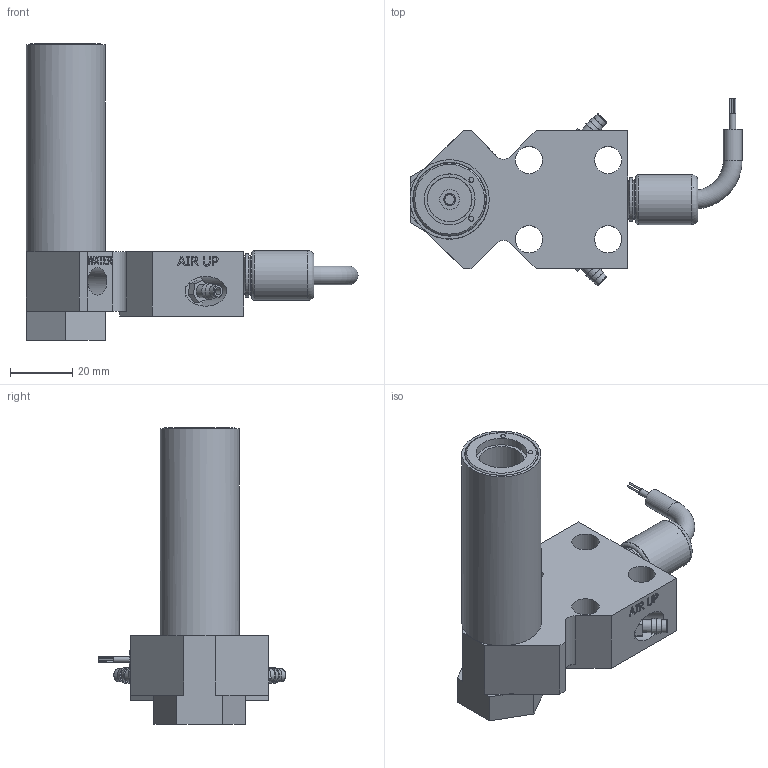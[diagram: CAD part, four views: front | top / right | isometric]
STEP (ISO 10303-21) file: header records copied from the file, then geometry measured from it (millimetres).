
FILE_DESCRIPTION(/* description */ ('ASSY,BODY,VF,LVDT,SXQR2,NHP'),/* implementation_level */ '2;1');
FILE_NAME(/* name */ 'C:\LVDT UPDATES\ASSY,BODY,VF,LVDT,SXQR2,NHP_0001278882.stp',/* time_stamp */ '2017-06-09T08:59:28-04:00',/* author */ ('tim.mcwilliams'),/* organization */ (''),/* preprocessor_version */ 'ST-DEVELOPER v16.5',/* originating_system */ 'Autodesk Inventor 2017',/* authorisation */ '');
FILE_SCHEMA (('AUTOMOTIVE_DESIGN { 1 0 10303 214 3 1 1 }'));
Length unit declared in the file: millimetre
Products named in the file (1): ASSY,BODY,VF,LVDT,SXQR2,NHP
Bounding box: 106.38 x 60.06 x 95.12 mm (x, y, z)
Volume: 73888.9 mm3; surface area: 43365.2 mm2
Topology: 4 solids, 6 shells, 1198 faces, 3121 edges, 2055 vertices
Faces by surface type: plane 613, bspline 340, cylinder 163, cone 59, torus 23
Full cylindrical faces by diameter (mm): 0.5 x4, 0.55 x16, 1.537 x2, 1.587 x3, 1.984 x1, 2 x1, 2.381 x10, 3.15 x2, 3.81 x1, 3.969 x2, 4 x3, 4.064 x2, 4.216 x4, 6 x2, 6.35 x2, 8 x1, 8.731 x7, 9.525 x2, 10 x1, 12.01 x1, 12.7 x3, 13.716 x1, 14 x2, 14.287 x1, 14.351 x1, 15.206 x1, 16 x1, 16.272 x1, 20.777 x4, 23.368 x4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
Entity records: 91853 total; most frequent: CARTESIAN_POINT 63990, ORIENTED_EDGE 5832, DIRECTION 4433, EDGE_CURVE 2915, VERTEX_POINT 1989, LINE 1691, VECTOR 1691, EDGE_LOOP 1492
